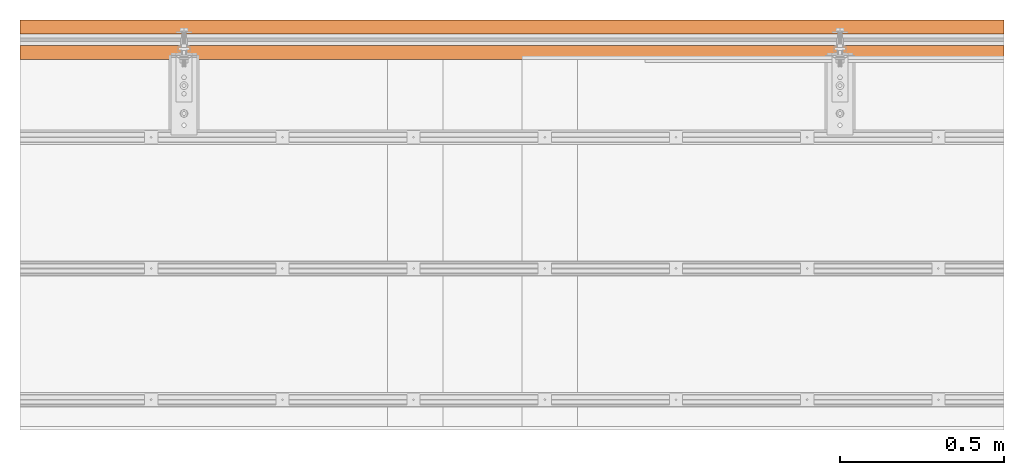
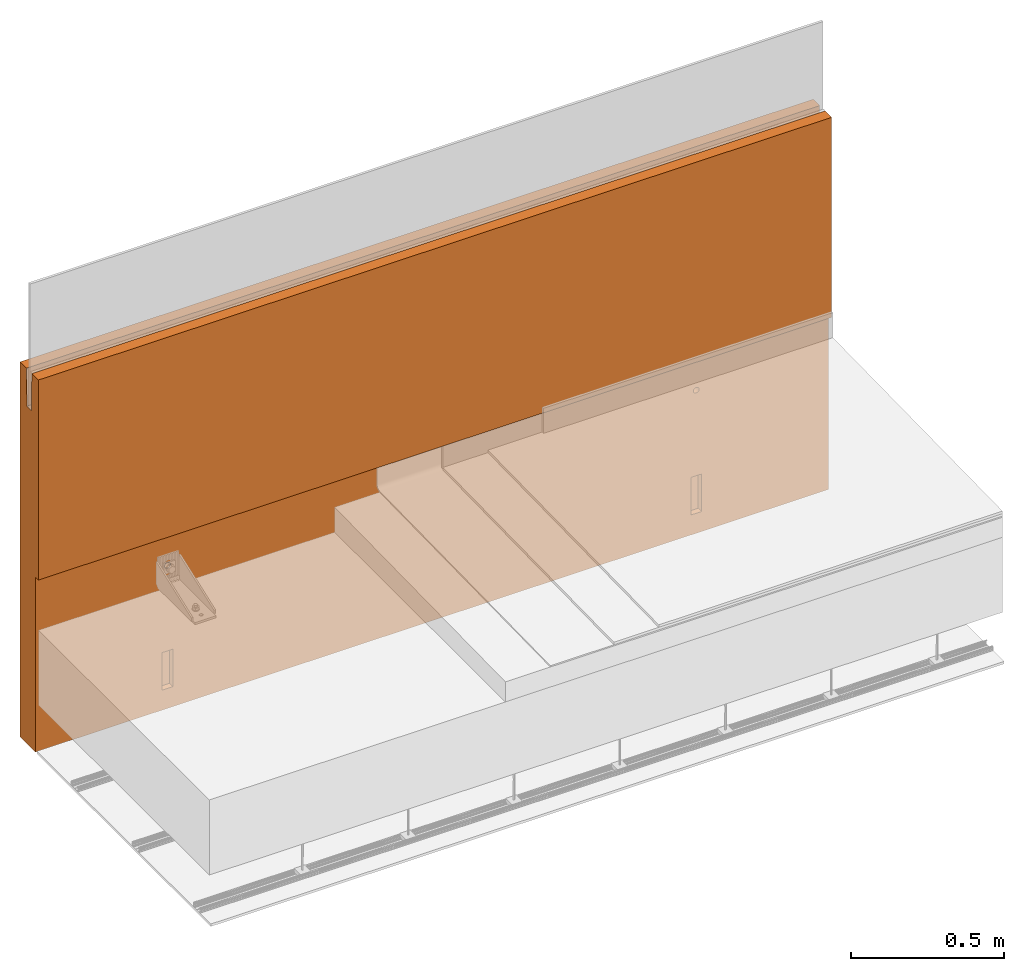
# One storey, part 8 of 8: 1 proxy.
"""IFC2X3 building model written with IfcOpenShell, lengths in metres."""

from ifc_helpers import new_model, entity, si_unit, converted_unit, derived_unit, direction, frame, origin, place, context, subcontext, project, spatial, faceted_brep, source, transform, mapped, material, type_object, type_shapes, element, save


model = new_model("IFC2X3")

# Units and contexts
model_context = context("Model", 3, precision=1e-05, world=origin(), true_north=direction((6.123031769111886e-17, 1.0)))
body_context = subcontext(model_context, "Body", "Model", "MODEL_VIEW")
ifc_project = project(units=[si_unit("LENGTHUNIT", "METRE"), si_unit("AREAUNIT", "SQUARE_METRE"), converted_unit("PLANEANGLEUNIT", "DEGREE", entity("IfcPlaneAngleMeasure", 0.017453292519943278), si_unit("PLANEANGLEUNIT", "RADIAN"), dimensions=[0, 0, 0, 0, 0, 0, 0]), si_unit("VOLUMEUNIT", "CUBIC_METRE"), derived_unit("THERMALTRANSMITTANCEUNIT", [(si_unit("MASSUNIT", "GRAM", prefix="KILO"), 1), (si_unit("THERMODYNAMICTEMPERATUREUNIT", "KELVIN"), -1), (si_unit("TIMEUNIT", "SECOND"), -3)]), derived_unit("USERDEFINED", [(si_unit("MASSUNIT", "GRAM", prefix="KILO"), 1), (si_unit("THERMODYNAMICTEMPERATUREUNIT", "KELVIN"), -1), (si_unit("TIMEUNIT", "SECOND"), -2)]), derived_unit("THERMALRESISTANCEUNIT", [(si_unit("MASSUNIT", "GRAM", prefix="KILO"), -1), (si_unit("TIMEUNIT", "SECOND"), 3), (si_unit("THERMODYNAMICTEMPERATUREUNIT", "KELVIN"), 1)]), si_unit("PRESSUREUNIT", "PASCAL"), derived_unit("MASSDENSITYUNIT", [(si_unit("MASSUNIT", "GRAM", prefix="KILO"), 1), (si_unit("LENGTHUNIT", "METRE"), -3)]), derived_unit("VAPORPERMEABILITYUNIT", [(si_unit("LENGTHUNIT", "METRE"), -1), (si_unit("TIMEUNIT", "SECOND"), 1)]), derived_unit("USERDEFINED", [(si_unit("MASSUNIT", "GRAM", prefix="KILO"), 1), (si_unit("TIMEUNIT", "SECOND"), -3), (si_unit("LENGTHUNIT", "METRE"), 3), (si_unit("ELECTRICCURRENTUNIT", "AMPERE"), -2)])], contexts=[model_context])

# Site, building, storey
site_placement = place(None, origin())
site = spatial("IfcSite", under=ifc_project, at=site_placement, Name="Default", CompositionType="ELEMENT")
building_placement = place(site_placement, origin())
building = spatial("IfcBuilding", under=site, at=building_placement, CompositionType="ELEMENT")
storey_placement = place(building_placement, origin())
storey = spatial("IfcBuildingStorey", under=building, at=storey_placement, Name="L0", CompositionType="ELEMENT", Elevation=0.0)

# Proxy
ifc_material = material(Name="Hormigón reforzado con fibra de vidrio")
building_element_proxy_type = type_object("IfcBuildingElementProxyType", Name="Panel Hormigón:Panel Hormigón", PredefinedType="NOTDEFINED", material=ifc_material)
shared_shape = source(origin(), body_context, "Body", "Brep", [
    faceted_brep([(7.887720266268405, 15.957030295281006, 1.4999999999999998), (4.887720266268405, 15.957030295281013, 1.4999999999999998), (4.887720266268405, 15.914530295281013, 1.4999999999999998), (7.887720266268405, 15.914530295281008, 1.4999999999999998), (7.887720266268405, 16.034530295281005, 1.4999999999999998), (4.887720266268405, 16.034530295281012, 1.4999999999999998), (4.887720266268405, 15.992030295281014, 1.4999999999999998), (7.887720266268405, 15.992030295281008, 1.4999999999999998), (7.887720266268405, 15.934530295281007, 0.0), (4.887720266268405, 15.934530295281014, 0.0), (4.887720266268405, 16.034530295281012, 0.0), (7.887720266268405, 16.034530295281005, 0.0), (4.887720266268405, 15.959530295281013, 1.3499999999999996), (4.887720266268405, 15.989530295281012, 1.35), (4.887720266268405, 15.934530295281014, 0.6999999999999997), (4.887720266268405, 15.914530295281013, 0.6999999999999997), (7.887720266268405, 15.914530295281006, 0.6999999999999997), (7.887720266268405, 15.989530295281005, 1.3499999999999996), (7.887720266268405, 15.959530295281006, 1.3499999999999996), (7.887720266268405, 15.934530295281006, 0.6999999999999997), (5.3799420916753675, 15.934530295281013, 0.5797781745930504), (5.382220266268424, 15.934530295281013, 0.5815262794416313), (5.378193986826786, 15.934530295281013, 0.5774999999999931), (5.384873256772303, 15.934530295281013, 0.5826251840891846), (5.3877202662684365, 15.934530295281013, 0.5830000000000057), (5.390567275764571, 15.934530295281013, 0.5826251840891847), (7.3848732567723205, 15.934530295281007, 0.5826251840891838), (7.382220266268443, 15.934530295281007, 0.5815262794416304), (5.393220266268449, 15.934530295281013, 0.5815262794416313), (7.379942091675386, 15.934530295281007, 0.5797781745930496), (5.395498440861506, 15.934530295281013, 0.5797781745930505), (5.397246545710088, 15.934530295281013, 0.5774999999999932), (7.378193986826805, 15.934530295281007, 0.5774999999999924), (5.398345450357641, 15.934530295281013, 0.5748470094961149), (7.377095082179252, 15.934530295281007, 0.574847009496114), (5.398720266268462, 15.934530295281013, 0.5719999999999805), (7.37672026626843, 15.934530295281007, 0.5719999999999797), (5.398345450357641, 15.934530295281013, 0.5691529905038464), (7.377095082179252, 15.934530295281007, 0.5691529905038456), (5.407870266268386, 15.934530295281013, 0.23000000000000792), (5.397246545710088, 15.934530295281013, 0.566499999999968), (5.395498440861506, 15.934530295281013, 0.5642218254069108), (5.393220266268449, 15.934530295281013, 0.56247372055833), (5.390567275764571, 15.934530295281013, 0.5613748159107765), (5.3877202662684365, 15.934530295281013, 0.5609999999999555), (5.367570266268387, 15.934530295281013, 0.23000000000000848), (5.384873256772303, 15.934530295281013, 0.5613748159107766), (5.382220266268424, 15.934530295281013, 0.5624737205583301), (5.3799420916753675, 15.934530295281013, 0.5642218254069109), (5.378193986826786, 15.934530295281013, 0.5664999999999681), (5.377095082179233, 15.934530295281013, 0.5691529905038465), (5.3767202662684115, 15.934530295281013, 0.5719999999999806), (5.377095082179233, 15.934530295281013, 0.5748470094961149), (5.367570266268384, 15.934530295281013, 0.08000000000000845), (7.367570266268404, 15.934530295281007, 0.22999999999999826), (7.367570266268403, 15.934530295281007, 0.0799999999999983), (5.407870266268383, 15.934530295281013, 0.08000000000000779), (7.407870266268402, 15.934530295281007, 0.07999999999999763), (7.407870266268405, 15.934530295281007, 0.22999999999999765), (7.387720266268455, 15.934530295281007, 0.583000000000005), (7.39056727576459, 15.934530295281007, 0.5826251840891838), (7.393220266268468, 15.934530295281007, 0.5815262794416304), (7.395498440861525, 15.934530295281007, 0.5797781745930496), (7.397246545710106, 15.934530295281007, 0.5774999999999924), (7.39834545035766, 15.934530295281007, 0.5748470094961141), (7.398720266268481, 15.934530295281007, 0.5719999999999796), (7.39834545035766, 15.934530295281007, 0.5691529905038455), (7.397246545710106, 15.934530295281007, 0.5664999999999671), (7.395498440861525, 15.934530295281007, 0.5642218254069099), (7.393220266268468, 15.934530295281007, 0.5624737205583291), (7.39056727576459, 15.934530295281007, 0.5613748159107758), (7.387720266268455, 15.934530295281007, 0.5609999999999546), (7.378193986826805, 15.934530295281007, 0.5664999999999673), (7.379942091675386, 15.934530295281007, 0.56422182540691), (7.382220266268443, 15.934530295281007, 0.5624737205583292), (7.3848732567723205, 15.934530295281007, 0.5613748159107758), (5.367570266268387, 15.956605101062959, 0.23000000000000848), (5.407870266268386, 15.956605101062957, 0.23000000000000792), (7.367570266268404, 15.956605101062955, 0.22999999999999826), (7.407870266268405, 15.956605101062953, 0.2299999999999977), (5.367570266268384, 15.956605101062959, 0.0800000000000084), (5.407870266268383, 15.956605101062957, 0.08000000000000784), (7.367570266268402, 15.956605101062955, 0.07999999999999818), (7.407870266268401, 15.956605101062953, 0.07999999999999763), (5.387720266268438, 15.979530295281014, 0.5830000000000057), (5.384873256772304, 15.979530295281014, 0.5826251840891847), (5.382220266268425, 15.979530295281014, 0.5815262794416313), (5.3799420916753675, 15.979530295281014, 0.5797781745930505), (5.378193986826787, 15.979530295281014, 0.5774999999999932), (5.377095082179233, 15.979530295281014, 0.5748470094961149), (5.376720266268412, 15.979530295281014, 0.5719999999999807), (5.377095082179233, 15.979530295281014, 0.5691529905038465), (5.378193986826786, 15.979530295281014, 0.5664999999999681), (5.3799420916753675, 15.979530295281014, 0.5642218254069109), (5.382220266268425, 15.979530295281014, 0.5624737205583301), (5.384873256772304, 15.979530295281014, 0.5613748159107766), (5.3877202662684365, 15.979530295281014, 0.5609999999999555), (5.390567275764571, 15.979530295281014, 0.5613748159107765), (5.393220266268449, 15.979530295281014, 0.56247372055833), (5.395498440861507, 15.979530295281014, 0.5642218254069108), (5.397246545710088, 15.979530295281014, 0.566499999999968), (5.398345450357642, 15.979530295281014, 0.5691529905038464), (5.398720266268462, 15.979530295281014, 0.5719999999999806), (5.398345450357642, 15.979530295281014, 0.5748470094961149), (5.397246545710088, 15.979530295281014, 0.5774999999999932), (5.395498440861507, 15.979530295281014, 0.5797781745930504), (5.393220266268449, 15.979530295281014, 0.5815262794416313), (5.390567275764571, 15.979530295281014, 0.5826251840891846), (7.387720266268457, 15.97953029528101, 0.583000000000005), (7.384873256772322, 15.97953029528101, 0.5826251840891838), (7.382220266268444, 15.97953029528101, 0.5815262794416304), (7.379942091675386, 15.97953029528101, 0.5797781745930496), (7.378193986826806, 15.97953029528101, 0.5774999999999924), (7.377095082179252, 15.97953029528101, 0.5748470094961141), (7.376720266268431, 15.97953029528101, 0.5719999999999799), (7.377095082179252, 15.97953029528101, 0.5691529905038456), (7.378193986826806, 15.97953029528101, 0.5664999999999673), (7.379942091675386, 15.97953029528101, 0.56422182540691), (7.382220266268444, 15.97953029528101, 0.5624737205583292), (7.384873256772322, 15.97953029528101, 0.5613748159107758), (7.387720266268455, 15.97953029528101, 0.5609999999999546), (7.39056727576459, 15.97953029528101, 0.5613748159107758), (7.393220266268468, 15.97953029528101, 0.5624737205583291), (7.395498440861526, 15.97953029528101, 0.5642218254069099), (7.397246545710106, 15.97953029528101, 0.5664999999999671), (7.3983454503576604, 15.97953029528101, 0.5691529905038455), (7.398720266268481, 15.97953029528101, 0.5719999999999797), (7.3983454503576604, 15.97953029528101, 0.574847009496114), (7.397246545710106, 15.97953029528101, 0.5774999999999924), (7.395498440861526, 15.97953029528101, 0.5797781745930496), (7.393220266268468, 15.97953029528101, 0.5815262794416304), (7.39056727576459, 15.97953029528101, 0.5826251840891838)], [[[0, 1, 2, 3]], [[4, 5, 6, 7]], [[8, 9, 10, 11]], [[2, 1, 12, 13, 6, 5, 10, 9, 14, 15]], [[3, 2, 15, 16]], [[4, 7, 17, 18, 0, 3, 16, 19, 8, 11]], [[5, 4, 11, 10]], [[16, 15, 14, 19]], [[20, 21, 14]], [[22, 20, 14]], [[23, 14, 21]], [[14, 23, 24]], [[25, 14, 24]], [[25, 26, 14]], [[25, 27, 26]], [[27, 25, 28]], [[28, 29, 27]], [[30, 29, 28]], [[29, 30, 31]], [[31, 32, 29]], [[33, 32, 31]], [[32, 33, 34]], [[34, 33, 35]], [[35, 36, 34]], [[36, 35, 37]], [[36, 37, 38]], [[38, 37, 39]], [[39, 37, 40]], [[39, 40, 41]], [[39, 41, 42]], [[39, 42, 43]], [[39, 43, 44]], [[44, 45, 39]], [[46, 45, 44]], [[45, 46, 47]], [[45, 47, 48]], [[45, 48, 49]], [[49, 50, 14]], [[49, 14, 45]], [[14, 50, 51]], [[14, 51, 52]], [[22, 14, 52]], [[45, 14, 9]], [[45, 9, 53]], [[38, 39, 54]], [[39, 55, 54]], [[55, 39, 56]], [[56, 53, 9]], [[55, 56, 9]], [[9, 8, 55]], [[55, 8, 57]], [[58, 57, 8]], [[58, 8, 19]], [[19, 26, 59]], [[19, 59, 60]], [[19, 60, 61]], [[61, 62, 19]], [[63, 19, 62]], [[64, 19, 63]], [[19, 64, 65]], [[19, 65, 66]], [[66, 67, 19]], [[19, 14, 26]], [[67, 58, 19]], [[58, 67, 68]], [[58, 68, 69]], [[58, 69, 70]], [[58, 70, 71]], [[71, 54, 58]], [[54, 72, 38]], [[54, 73, 72]], [[74, 73, 54]], [[54, 75, 74]], [[75, 54, 71]], [[18, 17, 13, 12]], [[0, 18, 12, 1]], [[17, 7, 6, 13]], [[45, 76, 77, 39]], [[54, 78, 79, 58]], [[80, 53, 56, 81]], [[82, 55, 57, 83]], [[53, 80, 76, 45]], [[81, 56, 39, 77]], [[81, 77, 76, 80]], [[83, 79, 78, 82]], [[55, 82, 78, 54]], [[83, 57, 58, 79]], [[84, 85, 86, 87, 88, 89, 90, 91, 92, 93, 94, 95, 96, 97, 98, 99, 100, 101, 102, 103, 104, 105, 106, 107]], [[108, 109, 110, 111, 112, 113, 114, 115, 116, 117, 118, 119, 120, 121, 122, 123, 124, 125, 126, 127, 128, 129, 130, 131]], [[90, 51, 50, 91]], [[91, 50, 49, 92]], [[94, 93, 48, 47]], [[48, 93, 92, 49]], [[95, 94, 47, 46]], [[95, 46, 44, 96]], [[96, 44, 43, 97]], [[97, 43, 42, 98]], [[100, 99, 41, 40]], [[41, 99, 98, 42]], [[101, 100, 40, 37]], [[101, 37, 35, 102]], [[102, 35, 33, 103]], [[103, 33, 31, 104]], [[106, 105, 30, 28]], [[30, 105, 104, 31]], [[107, 106, 28, 25]], [[107, 25, 24, 84]], [[84, 24, 23, 85]], [[85, 23, 21, 86]], [[88, 87, 20, 22]], [[20, 87, 86, 21]], [[89, 88, 22, 52]], [[89, 52, 51, 90]], [[114, 36, 38, 115]], [[115, 38, 72, 116]], [[118, 117, 73, 74]], [[73, 117, 116, 72]], [[119, 118, 74, 75]], [[119, 75, 71, 120]], [[120, 71, 70, 121]], [[121, 70, 69, 122]], [[124, 123, 68, 67]], [[68, 123, 122, 69]], [[125, 124, 67, 66]], [[125, 66, 65, 126]], [[126, 65, 64, 127]], [[127, 64, 63, 128]], [[130, 129, 62, 61]], [[62, 129, 128, 63]], [[131, 130, 61, 60]], [[131, 60, 59, 108]], [[108, 59, 26, 109]], [[109, 26, 27, 110]], [[112, 111, 29, 32]], [[29, 111, 110, 27]], [[113, 112, 32, 34]], [[113, 34, 36, 114]]]),
])
type_shapes(building_element_proxy_type, [shared_shape])
proxy_placement = place(storey_placement, frame((0.0, 0.0, -0.4999999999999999)))
element("IfcBuildingElementProxy", 1, at=proxy_placement, inside=storey, type_object=building_element_proxy_type, material=ifc_material, Name="Panel Hormigón:Panel Hormigón", ObjectType="Panel Hormigón:Panel Hormigón", context=body_context, shape_type="MappedRepresentation", body=[
    mapped(shared_shape, transform((0.0, 0.0, 0.0), scale=1.0)),
])

save(model, "model.ifc")
